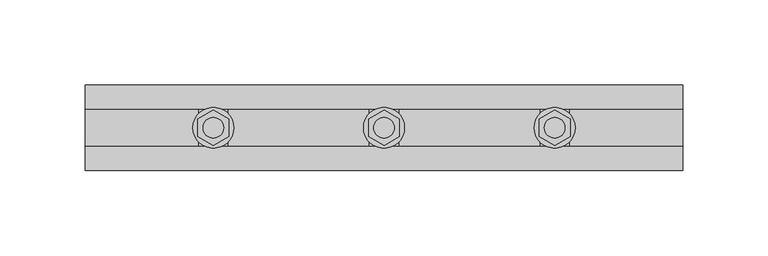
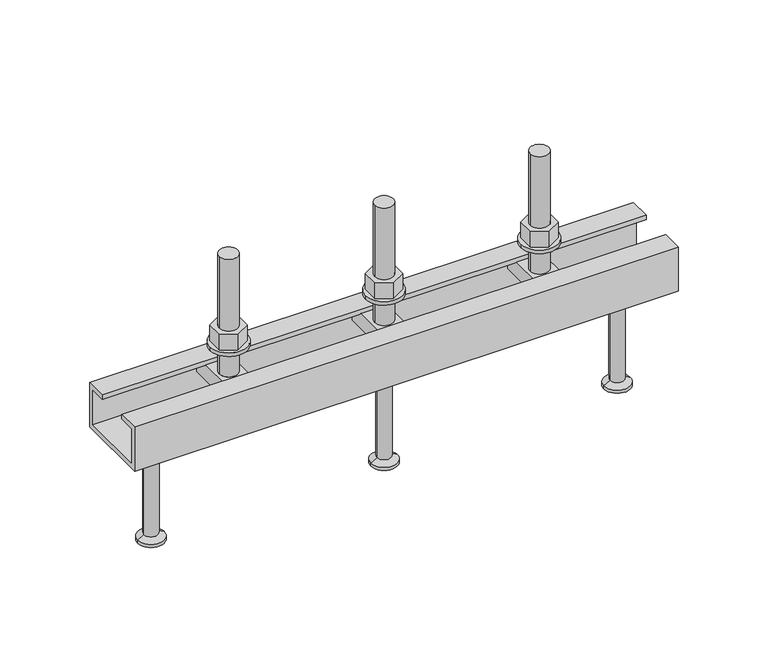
"""IFC4 building model written with IfcOpenShell, lengths in millimetres: fastener geometry, JTA-K JORDAHL® AnchorChannels : JTA-K L=350 mm."""

from ifc_helpers import new_model, si_unit, point, frame, frame_2d, origin, place, context, project, spatial, polyline, circle_curve, trimmed, segment, composite_curve, outline, extrude, source, transform, mapped, element, save
from ifc_brep_helpers import plane_surface, cylinder_surface, revolved_surface, advanced_brep


def fastener_aa669f07(model_context):
    return source(origin(), model_context, "Body", "SolidModel", [
        extrude(outline(polyline([(175.0, -10.3923048), (166.0, -5.1961524), (166.0, 5.1961524), (175.0, 10.3923048), (184.0, 5.1961524), (184.0, -5.1961524), (175.0, -10.3923048)]), holes=[composite_curve([segment(trimmed(circle_curve(frame_2d((175.0, 0.0)), 6.0), [point((169.0, 0.0))], [point((181.0, 0.0))], True, "CARTESIAN"), True, "CONTINUOUS"), segment(trimmed(circle_curve(frame_2d((175.0, 0.0)), 6.0), [point((181.0, 0.0))], [point((169.0, 0.0))], True, "CARTESIAN"), True, "CONTINUOUS")], self_intersect=False)]), frame((0.0, 0.0, 17.5), z_axis=(0.0, 0.0, 1.0), x_axis=(1.0, 0.0, 0.0)), (0.0, 0.0, 1.0), 10.8),
        extrude(outline(composite_curve([segment(trimmed(circle_curve(frame_2d((175.0, 0.0)), 12.0), [point((163.0, 0.0))], [point((187.0, 0.0))], False, "CARTESIAN"), True, "CONTINUOUS"), segment(trimmed(circle_curve(frame_2d((175.0, 0.0)), 12.0), [point((187.0, 0.0))], [point((163.0, 0.0))], False, "CARTESIAN"), True, "CONTINUOUS")], self_intersect=False), holes=[composite_curve([segment(trimmed(circle_curve(frame_2d((175.0, 0.0)), 6.5), [point((168.5, 0.0))], [point((181.5, 0.0))], True, "CARTESIAN"), True, "CONTINUOUS"), segment(trimmed(circle_curve(frame_2d((175.0, 0.0)), 6.5), [point((181.5, 0.0))], [point((168.5, 0.0))], True, "CARTESIAN"), True, "CONTINUOUS")], self_intersect=False)]), frame((0.0, 0.0, 15.0), z_axis=(0.0, 0.0, 1.0), x_axis=(1.0, 0.0, 0.0)), (0.0, 0.0, 1.0), 2.5),
        advanced_brep(
        [(183.5, -20.7, -3.0), (183.5, -20.7, -13.0), (183.5, 20.7, -13.0), (183.5, 20.7, -3.0), (166.5, -20.7, -3.0), (166.5, 20.7, -3.0), (166.5, 20.7, -13.0), (166.5, -20.7, -13.0), (181.0, 0.0, -3.0), (169.0, 0.0, -3.0), (169.0, 0.0, 77.0), (181.0, 0.0, 77.0)],
        [
            (0, 1),
            (1, 2),
            (2, 3),
            (3, 0),
            (4, 5),
            (5, 6),
            (6, 7),
            (7, 4),
            (3, 5),
            (4, 0),
            (8, 9, circle_curve(frame((175.0, 0.0, -3.0), z_axis=(0.0, 0.0, -1.0), x_axis=(1.0, 0.0, 0.0)), 6.0)),
            (9, 8, circle_curve(frame((175.0, 0.0, -3.0), z_axis=(0.0, 0.0, -1.0), x_axis=(1.0, 0.0, 0.0)), 6.0)),
            (2, 6),
            (1, 7),
            (10, 11, circle_curve(frame((175.0, 0.0, 77.0), z_axis=(0.0, 0.0, 1.0), x_axis=(1.0, 0.0, 0.0)), 6.0)),
            (11, 10, circle_curve(frame((175.0, 0.0, 77.0), z_axis=(0.0, 0.0, 1.0), x_axis=(1.0, 0.0, 0.0)), 6.0)),
            (11, 8),
            (9, 10),
        ],
        [
            plane_surface(frame((183.5, 20.7, -3.0), z_axis=(1.0, 0.0, 0.0), x_axis=(0.0, 1.0, 0.0))),
            plane_surface(frame((166.5, 20.7, -3.0), z_axis=(-1.0, 0.0, 0.0), x_axis=(0.0, -1.0, 0.0))),
            plane_surface(frame((183.5, -20.7, -3.0), z_axis=(0.0, 0.0, 1.0), x_axis=(-1.0, 0.0, 0.0))),
            plane_surface(frame((183.5, 20.7, -3.0), z_axis=(0.0, 1.0, 0.0), x_axis=(-1.0, 0.0, 0.0))),
            plane_surface(frame((183.5, 20.7, -13.0), z_axis=(0.0, 0.0, -1.0), x_axis=(-1.0, 0.0, 0.0))),
            plane_surface(frame((183.5, -20.7, -13.0), z_axis=(0.0, -1.0, 0.0), x_axis=(-1.0, 0.0, 0.0))),
            plane_surface(frame((181.0, 0.0, 77.0), z_axis=(0.0, 0.0, 1.0), x_axis=(0.0, -1.0, 0.0))),
            cylinder_surface(frame((175.0, 0.0, -3.0), z_axis=(0.0, 0.0, 1.0), x_axis=(1.0, 0.0, 0.0)), 6.0),
        ],
        [
            (0, [[1, 2, 3, 4]]),
            (1, [[5, 6, 7, 8]]),
            (2, [[9, -5, 10, -4], [11, 12]]),
            (3, [[13, -6, -9, -3]]),
            (4, [[14, -7, -13, -2]]),
            (5, [[-10, -8, -14, -1]]),
            (6, [[15, 16]]),
            (7, [[17, -12, 18, -16]]),
            (7, [[-18, -11, -17, -15]]),
        ],
    ),
        advanced_brep(
        [(175.0, 0.0, -30.0), (161.5, 0.0, -30.0), (188.5, 0.0, -30.0), (166.5, 0.0, -100.0), (175.0, 0.0, -100.0), (183.5, 0.0, -100.0), (166.5, 0.0, -98.0), (183.5, 0.0, -98.0), (170.5, 0.0, -95.6905989), (179.5, 0.0, -95.6905989), (170.5, 0.0, -32.5), (179.5, 0.0, -32.5)],
        [
            (0, 1),
            (1, 2, circle_curve(frame((175.0, 0.0, -30.0), z_axis=(0.0, 0.0, 1.0), x_axis=(1.0, 0.0, 0.0)), 13.5)),
            (2, 0),
            (2, 1, circle_curve(frame((175.0, 0.0, -30.0), z_axis=(0.0, 0.0, 1.0), x_axis=(1.0, 0.0, 0.0)), 13.5)),
            (3, 4),
            (4, 5),
            (5, 3, circle_curve(frame((175.0, 0.0, -100.0), z_axis=(0.0, 0.0, -1.0), x_axis=(1.0, 0.0, 0.0)), 8.5)),
            (3, 5, circle_curve(frame((175.0, 0.0, -100.0), z_axis=(0.0, 0.0, -1.0), x_axis=(1.0, 0.0, 0.0)), 8.5)),
            (6, 3),
            (5, 7),
            (7, 6, circle_curve(frame((175.0, 0.0, -98.0), z_axis=(0.0, 0.0, -1.0), x_axis=(1.0, 0.0, 0.0)), 8.5)),
            (6, 7, circle_curve(frame((175.0, 0.0, -98.0), z_axis=(0.0, 0.0, -1.0), x_axis=(1.0, 0.0, 0.0)), 8.5)),
            (8, 6),
            (7, 9),
            (9, 8, circle_curve(frame((175.0, 0.0, -95.6905989), z_axis=(0.0, 0.0, -1.0), x_axis=(1.0, 0.0, 0.0)), 4.5)),
            (8, 9, circle_curve(frame((175.0, 0.0, -95.6905989), z_axis=(0.0, 0.0, -1.0), x_axis=(1.0, 0.0, 0.0)), 4.5)),
            (10, 8),
            (9, 11),
            (11, 10, circle_curve(frame((175.0, 0.0, -32.5), z_axis=(0.0, 0.0, -1.0), x_axis=(1.0, 0.0, 0.0)), 4.5)),
            (10, 11, circle_curve(frame((175.0, 0.0, -32.5), z_axis=(0.0, 0.0, -1.0), x_axis=(1.0, 0.0, 0.0)), 4.5)),
            (1, 10),
            (11, 2),
        ],
        [
            plane_surface(frame((175.0, 0.0, -30.0), z_axis=(0.0, 0.0, 1.0), x_axis=(1.0, 0.0, 0.0))),
            plane_surface(frame((175.0, 0.0, -100.0), z_axis=(0.0, 0.0, -1.0), x_axis=(1.0, 0.0, 0.0))),
            cylinder_surface(frame((175.0, 0.0, 2284.3150031), z_axis=(0.0, 0.0, 1.0), x_axis=(1.0, 0.0, 0.0)), 8.5),
            revolved_surface(polyline([(183.5, 0.0, -98.0), (179.5, 0.0, -95.6905989)]), (175.0, 0.0, 2284.3150031), (0.0, 0.0, 1.0)),
            cylinder_surface(frame((175.0, 0.0, 2284.3150031), z_axis=(0.0, 0.0, 1.0), x_axis=(1.0, 0.0, 0.0)), 4.5),
            revolved_surface(polyline([(179.5, 0.0, -32.5), (188.5, 0.0, -30.0)]), (175.0, 0.0, 2284.3150031), (0.0, 0.0, 1.0)),
        ],
        [
            (0, [[1, 2, 3]]),
            (0, [[-3, 4, -1]]),
            (1, [[5, 6, 7]]),
            (1, [[-6, -5, 8]]),
            (2, [[9, -7, 10, 11]]),
            (2, [[-10, -8, -9, 12]]),
            (3, [[13, -11, 14, 15]]),
            (3, [[-14, -12, -13, 16]]),
            (4, [[17, -15, 18, 19]]),
            (4, [[-18, -16, -17, 20]]),
            (5, [[21, -19, 22, -2]]),
            (5, [[-22, -20, -21, -4]]),
        ],
    ),
        extrude(outline(polyline([(275.0, -10.3923048), (266.0, -5.1961524), (266.0, 5.1961524), (275.0, 10.3923048), (284.0, 5.1961524), (284.0, -5.1961524), (275.0, -10.3923048)]), holes=[composite_curve([segment(trimmed(circle_curve(frame_2d((275.0, 0.0)), 6.0), [point((269.0, 0.0))], [point((281.0, 0.0))], True, "CARTESIAN"), True, "CONTINUOUS"), segment(trimmed(circle_curve(frame_2d((275.0, 0.0)), 6.0), [point((281.0, 0.0))], [point((269.0, 0.0))], True, "CARTESIAN"), True, "CONTINUOUS")], self_intersect=False)]), frame((0.0, 0.0, 17.5), z_axis=(0.0, 0.0, 1.0), x_axis=(1.0, 0.0, 0.0)), (0.0, 0.0, 1.0), 10.8),
        extrude(outline(composite_curve([segment(trimmed(circle_curve(frame_2d((275.0, 0.0)), 12.0), [point((263.0, 0.0))], [point((287.0, 0.0))], False, "CARTESIAN"), True, "CONTINUOUS"), segment(trimmed(circle_curve(frame_2d((275.0, 0.0)), 12.0), [point((287.0, 0.0))], [point((263.0, 0.0))], False, "CARTESIAN"), True, "CONTINUOUS")], self_intersect=False), holes=[composite_curve([segment(trimmed(circle_curve(frame_2d((275.0, 0.0)), 6.5), [point((268.5, 0.0))], [point((281.5, 0.0))], True, "CARTESIAN"), True, "CONTINUOUS"), segment(trimmed(circle_curve(frame_2d((275.0, 0.0)), 6.5), [point((281.5, 0.0))], [point((268.5, 0.0))], True, "CARTESIAN"), True, "CONTINUOUS")], self_intersect=False)]), frame((0.0, 0.0, 15.0), z_axis=(0.0, 0.0, 1.0), x_axis=(1.0, 0.0, 0.0)), (0.0, 0.0, 1.0), 2.5),
        extrude(outline(polyline([(75.0, -10.3923048), (66.0, -5.1961524), (66.0, 5.1961524), (75.0, 10.3923048), (84.0, 5.1961524), (84.0, -5.1961524), (75.0, -10.3923048)]), holes=[composite_curve([segment(trimmed(circle_curve(frame_2d((75.0, 0.0)), 6.0), [point((69.0, 0.0))], [point((81.0, 0.0))], True, "CARTESIAN"), True, "CONTINUOUS"), segment(trimmed(circle_curve(frame_2d((75.0, 0.0)), 6.0), [point((81.0, 0.0))], [point((69.0, 0.0))], True, "CARTESIAN"), True, "CONTINUOUS")], self_intersect=False)]), frame((0.0, 0.0, 17.5), z_axis=(0.0, 0.0, 1.0), x_axis=(1.0, 0.0, 0.0)), (0.0, 0.0, 1.0), 10.8),
        extrude(outline(composite_curve([segment(trimmed(circle_curve(frame_2d((75.0, 0.0)), 12.0), [point((63.0, 0.0))], [point((87.0, 0.0))], False, "CARTESIAN"), True, "CONTINUOUS"), segment(trimmed(circle_curve(frame_2d((75.0, 0.0)), 12.0), [point((87.0, 0.0))], [point((63.0, 0.0))], False, "CARTESIAN"), True, "CONTINUOUS")], self_intersect=False), holes=[composite_curve([segment(trimmed(circle_curve(frame_2d((75.0, 0.0)), 6.5), [point((68.5, 0.0))], [point((81.5, 0.0))], True, "CARTESIAN"), True, "CONTINUOUS"), segment(trimmed(circle_curve(frame_2d((75.0, 0.0)), 6.5), [point((81.5, 0.0))], [point((68.5, 0.0))], True, "CARTESIAN"), True, "CONTINUOUS")], self_intersect=False)]), frame((0.0, 0.0, 15.0), z_axis=(0.0, 0.0, 1.0), x_axis=(1.0, 0.0, 0.0)), (0.0, 0.0, 1.0), 2.5),
        advanced_brep(
        [(283.5, -20.7, -3.0), (283.5, -20.7, -13.0), (283.5, 20.7, -13.0), (283.5, 20.7, -3.0), (266.5, -20.7, -3.0), (266.5, 20.7, -3.0), (266.5, 20.7, -13.0), (266.5, -20.7, -13.0), (281.0, 0.0, -3.0), (269.0, 0.0, -3.0), (269.0, 0.0, 77.0), (281.0, 0.0, 77.0)],
        [
            (0, 1),
            (1, 2),
            (2, 3),
            (3, 0),
            (4, 5),
            (5, 6),
            (6, 7),
            (7, 4),
            (3, 5),
            (4, 0),
            (8, 9, circle_curve(frame((275.0, 0.0, -3.0), z_axis=(0.0, 0.0, -1.0), x_axis=(1.0, 0.0, 0.0)), 6.0)),
            (9, 8, circle_curve(frame((275.0, 0.0, -3.0), z_axis=(0.0, 0.0, -1.0), x_axis=(1.0, 0.0, 0.0)), 6.0)),
            (2, 6),
            (1, 7),
            (10, 11, circle_curve(frame((275.0, 0.0, 77.0), z_axis=(0.0, 0.0, 1.0), x_axis=(1.0, 0.0, 0.0)), 6.0)),
            (11, 10, circle_curve(frame((275.0, 0.0, 77.0), z_axis=(0.0, 0.0, 1.0), x_axis=(1.0, 0.0, 0.0)), 6.0)),
            (11, 8),
            (9, 10),
        ],
        [
            plane_surface(frame((283.5, 20.7, -3.0), z_axis=(1.0, 0.0, 0.0), x_axis=(0.0, 1.0, 0.0))),
            plane_surface(frame((266.5, 20.7, -3.0), z_axis=(-1.0, 0.0, 0.0), x_axis=(0.0, -1.0, 0.0))),
            plane_surface(frame((283.5, -20.7, -3.0), z_axis=(0.0, 0.0, 1.0), x_axis=(-1.0, 0.0, 0.0))),
            plane_surface(frame((283.5, 20.7, -3.0), z_axis=(0.0, 1.0, 0.0), x_axis=(-1.0, 0.0, 0.0))),
            plane_surface(frame((283.5, 20.7, -13.0), z_axis=(0.0, 0.0, -1.0), x_axis=(-1.0, 0.0, 0.0))),
            plane_surface(frame((283.5, -20.7, -13.0), z_axis=(0.0, -1.0, 0.0), x_axis=(-1.0, 0.0, 0.0))),
            plane_surface(frame((281.0, 0.0, 77.0), z_axis=(0.0, 0.0, 1.0), x_axis=(0.0, -1.0, 0.0))),
            cylinder_surface(frame((275.0, 0.0, -3.0), z_axis=(0.0, 0.0, 1.0), x_axis=(1.0, 0.0, 0.0)), 6.0),
        ],
        [
            (0, [[1, 2, 3, 4]]),
            (1, [[5, 6, 7, 8]]),
            (2, [[9, -5, 10, -4], [11, 12]]),
            (3, [[13, -6, -9, -3]]),
            (4, [[14, -7, -13, -2]]),
            (5, [[-10, -8, -14, -1]]),
            (6, [[15, 16]]),
            (7, [[17, -12, 18, -16]]),
            (7, [[-18, -11, -17, -15]]),
        ],
    ),
        advanced_brep(
        [(83.5, -20.7, -3.0), (83.5, -20.7, -13.0), (83.5, 20.7, -13.0), (83.5, 20.7, -3.0), (66.5, -20.7, -3.0), (66.5, 20.7, -3.0), (66.5, 20.7, -13.0), (66.5, -20.7, -13.0), (81.0, 0.0, -3.0), (69.0, 0.0, -3.0), (69.0, 0.0, 77.0), (81.0, 0.0, 77.0)],
        [
            (0, 1),
            (1, 2),
            (2, 3),
            (3, 0),
            (4, 5),
            (5, 6),
            (6, 7),
            (7, 4),
            (3, 5),
            (4, 0),
            (8, 9, circle_curve(frame((75.0, 0.0, -3.0), z_axis=(0.0, 0.0, -1.0), x_axis=(1.0, 0.0, 0.0)), 6.0)),
            (9, 8, circle_curve(frame((75.0, 0.0, -3.0), z_axis=(0.0, 0.0, -1.0), x_axis=(1.0, 0.0, 0.0)), 6.0)),
            (2, 6),
            (1, 7),
            (10, 11, circle_curve(frame((75.0, 0.0, 77.0), z_axis=(0.0, 0.0, 1.0), x_axis=(1.0, 0.0, 0.0)), 6.0)),
            (11, 10, circle_curve(frame((75.0, 0.0, 77.0), z_axis=(0.0, 0.0, 1.0), x_axis=(1.0, 0.0, 0.0)), 6.0)),
            (11, 8),
            (9, 10),
        ],
        [
            plane_surface(frame((83.5, 20.7, -3.0), z_axis=(1.0, 0.0, 0.0), x_axis=(0.0, 1.0, 0.0))),
            plane_surface(frame((66.5, 20.7, -3.0), z_axis=(-1.0, 0.0, 0.0), x_axis=(0.0, -1.0, 0.0))),
            plane_surface(frame((83.5, -20.7, -3.0), z_axis=(0.0, 0.0, 1.0), x_axis=(-1.0, 0.0, 0.0))),
            plane_surface(frame((83.5, 20.7, -3.0), z_axis=(0.0, 1.0, 0.0), x_axis=(-1.0, 0.0, 0.0))),
            plane_surface(frame((83.5, 20.7, -13.0), z_axis=(0.0, 0.0, -1.0), x_axis=(-1.0, 0.0, 0.0))),
            plane_surface(frame((83.5, -20.7, -13.0), z_axis=(0.0, -1.0, 0.0), x_axis=(-1.0, 0.0, 0.0))),
            plane_surface(frame((81.0, 0.0, 77.0), z_axis=(0.0, 0.0, 1.0), x_axis=(0.0, -1.0, 0.0))),
            cylinder_surface(frame((75.0, 0.0, -3.0), z_axis=(0.0, 0.0, 1.0), x_axis=(1.0, 0.0, 0.0)), 6.0),
        ],
        [
            (0, [[1, 2, 3, 4]]),
            (1, [[5, 6, 7, 8]]),
            (2, [[9, -5, 10, -4], [11, 12]]),
            (3, [[13, -6, -9, -3]]),
            (4, [[14, -7, -13, -2]]),
            (5, [[-10, -8, -14, -1]]),
            (6, [[15, 16]]),
            (7, [[17, -12, 18, -16]]),
            (7, [[-18, -11, -17, -15]]),
        ],
    ),
        advanced_brep(
        [(325.0, 0.0, -30.0), (311.5, 0.0, -30.0), (338.5, 0.0, -30.0), (316.5, 0.0, -100.0), (325.0, 0.0, -100.0), (333.5, 0.0, -100.0), (316.5, 0.0, -98.0), (333.5, 0.0, -98.0), (320.5, 0.0, -95.6905989), (329.5, 0.0, -95.6905989), (320.5, 0.0, -32.5), (329.5, 0.0, -32.5)],
        [
            (0, 1),
            (1, 2, circle_curve(frame((325.0, 0.0, -30.0), z_axis=(0.0, 0.0, 1.0), x_axis=(1.0, 0.0, 0.0)), 13.5)),
            (2, 0),
            (2, 1, circle_curve(frame((325.0, 0.0, -30.0), z_axis=(0.0, 0.0, 1.0), x_axis=(1.0, 0.0, 0.0)), 13.5)),
            (3, 4),
            (4, 5),
            (5, 3, circle_curve(frame((325.0, 0.0, -100.0), z_axis=(0.0, 0.0, -1.0), x_axis=(1.0, 0.0, 0.0)), 8.5)),
            (3, 5, circle_curve(frame((325.0, 0.0, -100.0), z_axis=(0.0, 0.0, -1.0), x_axis=(1.0, 0.0, 0.0)), 8.5)),
            (6, 3),
            (5, 7),
            (7, 6, circle_curve(frame((325.0, 0.0, -98.0), z_axis=(0.0, 0.0, -1.0), x_axis=(1.0, 0.0, 0.0)), 8.5)),
            (6, 7, circle_curve(frame((325.0, 0.0, -98.0), z_axis=(0.0, 0.0, -1.0), x_axis=(1.0, 0.0, 0.0)), 8.5)),
            (8, 6),
            (7, 9),
            (9, 8, circle_curve(frame((325.0, 0.0, -95.6905989), z_axis=(0.0, 0.0, -1.0), x_axis=(1.0, 0.0, 0.0)), 4.5)),
            (8, 9, circle_curve(frame((325.0, 0.0, -95.6905989), z_axis=(0.0, 0.0, -1.0), x_axis=(1.0, 0.0, 0.0)), 4.5)),
            (10, 8),
            (9, 11),
            (11, 10, circle_curve(frame((325.0, 0.0, -32.5), z_axis=(0.0, 0.0, -1.0), x_axis=(1.0, 0.0, 0.0)), 4.5)),
            (10, 11, circle_curve(frame((325.0, 0.0, -32.5), z_axis=(0.0, 0.0, -1.0), x_axis=(1.0, 0.0, 0.0)), 4.5)),
            (1, 10),
            (11, 2),
        ],
        [
            plane_surface(frame((325.0, 0.0, -30.0), z_axis=(0.0, 0.0, 1.0), x_axis=(1.0, 0.0, 0.0))),
            plane_surface(frame((325.0, 0.0, -100.0), z_axis=(0.0, 0.0, -1.0), x_axis=(1.0, 0.0, 0.0))),
            cylinder_surface(frame((325.0, 0.0, 2284.3150031), z_axis=(0.0, 0.0, 1.0), x_axis=(1.0, 0.0, 0.0)), 8.5),
            revolved_surface(polyline([(333.5, 0.0, -98.0), (329.5, 0.0, -95.6905989)]), (325.0, 0.0, 2284.3150031), (0.0, 0.0, 1.0)),
            cylinder_surface(frame((325.0, 0.0, 2284.3150031), z_axis=(0.0, 0.0, 1.0), x_axis=(1.0, 0.0, 0.0)), 4.5),
            revolved_surface(polyline([(329.5, 0.0, -32.5), (338.5, 0.0, -30.0)]), (325.0, 0.0, 2284.3150031), (0.0, 0.0, 1.0)),
        ],
        [
            (0, [[1, 2, 3]]),
            (0, [[-3, 4, -1]]),
            (1, [[5, 6, 7]]),
            (1, [[-6, -5, 8]]),
            (2, [[9, -7, 10, 11]]),
            (2, [[-10, -8, -9, 12]]),
            (3, [[13, -11, 14, 15]]),
            (3, [[-14, -12, -13, 16]]),
            (4, [[17, -15, 18, 19]]),
            (4, [[-18, -16, -17, 20]]),
            (5, [[21, -19, 22, -2]]),
            (5, [[-22, -20, -21, -4]]),
        ],
    ),
        advanced_brep(
        [(25.0, 0.0, -30.0), (11.5, 0.0, -30.0), (38.5, 0.0, -30.0), (16.5, 0.0, -100.0), (25.0, 0.0, -100.0), (33.5, 0.0, -100.0), (16.5, 0.0, -98.0), (33.5, 0.0, -98.0), (20.5, 0.0, -95.6905989), (29.5, 0.0, -95.6905989), (20.5, 0.0, -32.5), (29.5, 0.0, -32.5)],
        [
            (0, 1),
            (1, 2, circle_curve(frame((25.0, 0.0, -30.0), z_axis=(0.0, 0.0, 1.0), x_axis=(1.0, 0.0, 0.0)), 13.5)),
            (2, 0),
            (2, 1, circle_curve(frame((25.0, 0.0, -30.0), z_axis=(0.0, 0.0, 1.0), x_axis=(1.0, 0.0, 0.0)), 13.5)),
            (3, 4),
            (4, 5),
            (5, 3, circle_curve(frame((25.0, 0.0, -100.0), z_axis=(0.0, 0.0, -1.0), x_axis=(1.0, 0.0, 0.0)), 8.5)),
            (3, 5, circle_curve(frame((25.0, 0.0, -100.0), z_axis=(0.0, 0.0, -1.0), x_axis=(1.0, 0.0, 0.0)), 8.5)),
            (6, 3),
            (5, 7),
            (7, 6, circle_curve(frame((25.0, 0.0, -98.0), z_axis=(0.0, 0.0, -1.0), x_axis=(1.0, 0.0, 0.0)), 8.5)),
            (6, 7, circle_curve(frame((25.0, 0.0, -98.0), z_axis=(0.0, 0.0, -1.0), x_axis=(1.0, 0.0, 0.0)), 8.5)),
            (8, 6),
            (7, 9),
            (9, 8, circle_curve(frame((25.0, 0.0, -95.6905989), z_axis=(0.0, 0.0, -1.0), x_axis=(1.0, 0.0, 0.0)), 4.5)),
            (8, 9, circle_curve(frame((25.0, 0.0, -95.6905989), z_axis=(0.0, 0.0, -1.0), x_axis=(1.0, 0.0, 0.0)), 4.5)),
            (10, 8),
            (9, 11),
            (11, 10, circle_curve(frame((25.0, 0.0, -32.5), z_axis=(0.0, 0.0, -1.0), x_axis=(1.0, 0.0, 0.0)), 4.5)),
            (10, 11, circle_curve(frame((25.0, 0.0, -32.5), z_axis=(0.0, 0.0, -1.0), x_axis=(1.0, 0.0, 0.0)), 4.5)),
            (1, 10),
            (11, 2),
        ],
        [
            plane_surface(frame((25.0, 0.0, -30.0), z_axis=(0.0, 0.0, 1.0), x_axis=(1.0, 0.0, 0.0))),
            plane_surface(frame((25.0, 0.0, -100.0), z_axis=(0.0, 0.0, -1.0), x_axis=(1.0, 0.0, 0.0))),
            cylinder_surface(frame((25.0, 0.0, 2284.3150031), z_axis=(0.0, 0.0, 1.0), x_axis=(1.0, 0.0, 0.0)), 8.5),
            revolved_surface(polyline([(33.5, 0.0, -98.0), (29.5, 0.0, -95.6905989)]), (25.0, 0.0, 2284.3150031), (0.0, 0.0, 1.0)),
            cylinder_surface(frame((25.0, 0.0, 2284.3150031), z_axis=(0.0, 0.0, 1.0), x_axis=(1.0, 0.0, 0.0)), 4.5),
            revolved_surface(polyline([(29.5, 0.0, -32.5), (38.5, 0.0, -30.0)]), (25.0, 0.0, 2284.3150031), (0.0, 0.0, 1.0)),
        ],
        [
            (0, [[1, 2, 3]]),
            (0, [[-3, 4, -1]]),
            (1, [[5, 6, 7]]),
            (1, [[-6, -5, 8]]),
            (2, [[9, -7, 10, 11]]),
            (2, [[-10, -8, -9, 12]]),
            (3, [[13, -11, 14, 15]]),
            (3, [[-14, -12, -13, 16]]),
            (4, [[17, -15, 18, 19]]),
            (4, [[-18, -16, -17, 20]]),
            (5, [[21, -19, 22, -2]]),
            (5, [[-22, -20, -21, -4]]),
        ],
    ),
        extrude(outline(polyline([(-25.0, 0.0), (-11.0, 0.0), (-11.0, -3.0), (-22.0, -3.0), (-22.0, -27.0), (22.0, -27.0), (22.0, -3.0), (11.0, -3.0), (11.0, 0.0), (25.0, 0.0), (25.0, -30.0), (-25.0, -30.0), (-25.0, 0.0)])), frame((0.0, 0.0, 0.0), z_axis=(1.0, 0.0, 0.0), x_axis=(0.0, 1.0, 0.0)), (0.0, 0.0, 1.0), 350.0),
    ])


if __name__ == "__main__":
    model = new_model("IFC4")
    model_context = context("Model", 3, world=origin())
    ifc_project = project(units=[si_unit("LENGTHUNIT", "METRE", prefix="MILLI")], contexts=[model_context])
    site = spatial("IfcSite", under=ifc_project)
    building = spatial("IfcBuilding", under=site)
    placement = place(None, origin())
    fastener_shape = fastener_aa669f07(model_context)
    element("IfcFastener", 1, ObjectType="JTA-K JORDAHL® AnchorChannels : JTA-K L=350 mm", at=placement, inside=building, context=model_context, shape_type="MappedRepresentation", body=[
        mapped(fastener_shape, transform((0.0, 0.0, 0.0), x_axis=(1.0, 0.0, 0.0), y_axis=(0.0, 1.0, 0.0), z_axis=(0.0, 0.0, 1.0))),
    ])
    save(model, "model.ifc")
